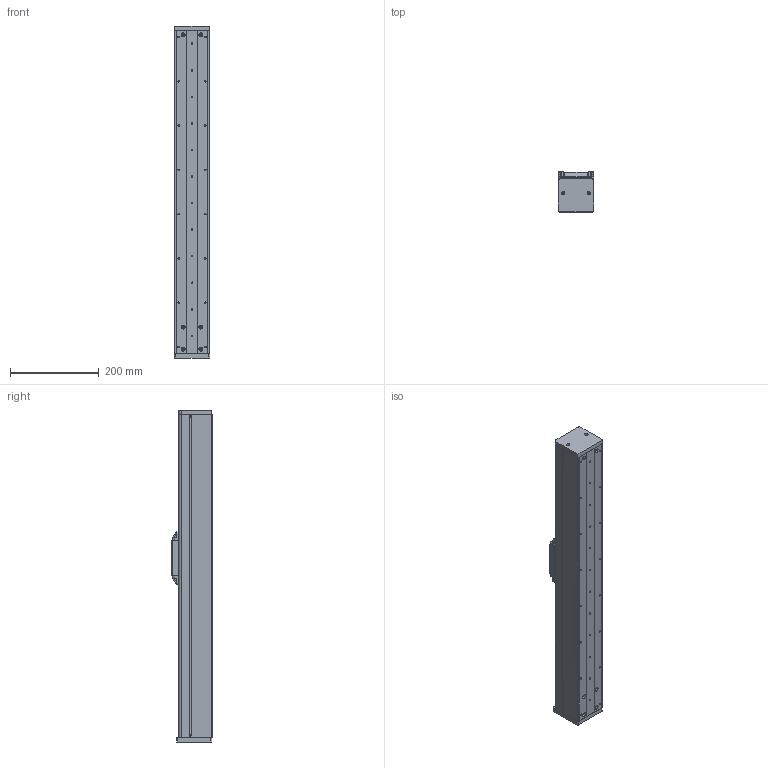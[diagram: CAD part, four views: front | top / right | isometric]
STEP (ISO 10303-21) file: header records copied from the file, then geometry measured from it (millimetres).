
FILE_DESCRIPTION (( 'STEP AP214' ), '1' );
FILE_NAME ('CF80-16-C-500-FW60.STEP', '2016-02-19T02:18:10', ( '' ), ( '' ), 'SwSTEP 2.0', 'SolidWorks 2015', '' );
FILE_SCHEMA (( 'AUTOMOTIVE_DESIGN' ));
Length unit declared in the file: millimetre
Products named in the file (13): CF80盓傅釱; 詩湍揤啣; CF80耜啣; CF80-60萇儂假蚾啣; 賑雄輸; CFN80墙板; EGR15絳寢; CF80-16-C-500-FW60; CF80詩湍; CFN80菁釱; 賑雄輸裔啣; CFN80嘐隅釱; EGW15CA賑輸
Assembly tree (14 placements, depth 2):
  CF80-16-C-500-FW60
    CFN80菁釱
    CFN80墙板  x2
    EGW15CA賑輸
    EGR15絳寢
    CF80盓傅釱
    賑雄輸
    CFN80嘐隅釱
    賑雄輸裔啣
    CF80-60萇儂假蚾啣
    CF80耜啣
    CF80詩湍
    詩湍揤啣  x2
Bounding box: 80.02 x 91 x 750 mm (x, y, z)
Volume: 1596883 mm3; surface area: 743717.6 mm2
Topology: 14 solids, 14 shells, 733 faces, 2030 edges, 1344 vertices
Faces by surface type: cylinder 373, plane 352, cone 8
Entity records: 24405 total; most frequent: CARTESIAN_POINT 5675, DIRECTION 3767, ORIENTED_EDGE 3722, EDGE_CURVE 1861, AXIS2_PLACEMENT_3D 1340, VERTEX_POINT 1234, LINE 1087, VECTOR 1087
